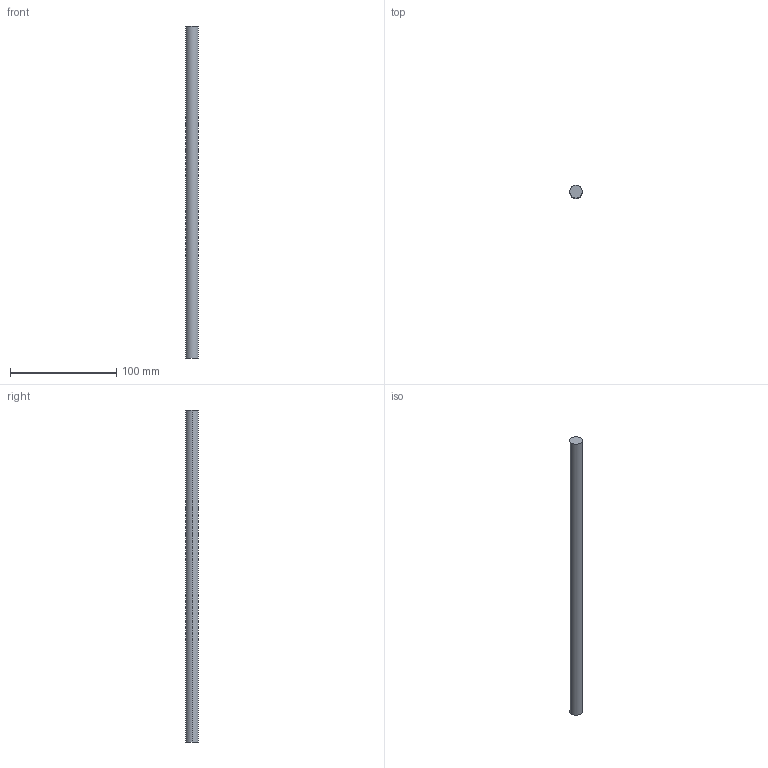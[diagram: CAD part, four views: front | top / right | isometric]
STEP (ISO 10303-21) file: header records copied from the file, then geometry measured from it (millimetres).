
FILE_DESCRIPTION (( 'STEP AP214' ), '1' );
FILE_NAME ('Magic Reling längs - 350.step', '2010-09-07T14:56:15', ( 'grass' ), ( '' ), 'SwSTEP 2.0', 'SolidWorks 2010', '' );
FILE_SCHEMA (( 'AUTOMOTIVE_DESIGN' ));
Length unit declared in the file: millimetre
Products named in the file (1): Magic Reling längs - 350
Bounding box: 12 x 12 x 312 mm (x, y, z)
Volume: 35286.4 mm3; surface area: 11988.3 mm2
Topology: 1 solids, 1 shells, 4 faces, 6 edges, 4 vertices
Faces by surface type: cylinder 2, plane 2
Entity records: 128 total; most frequent: DIRECTION 20, CARTESIAN_POINT 15, ORIENTED_EDGE 12, AXIS2_PLACEMENT_3D 9, EDGE_CURVE 6, EDGE_LOOP 4, FACE_OUTER_BOUND 4, CIRCLE 4
